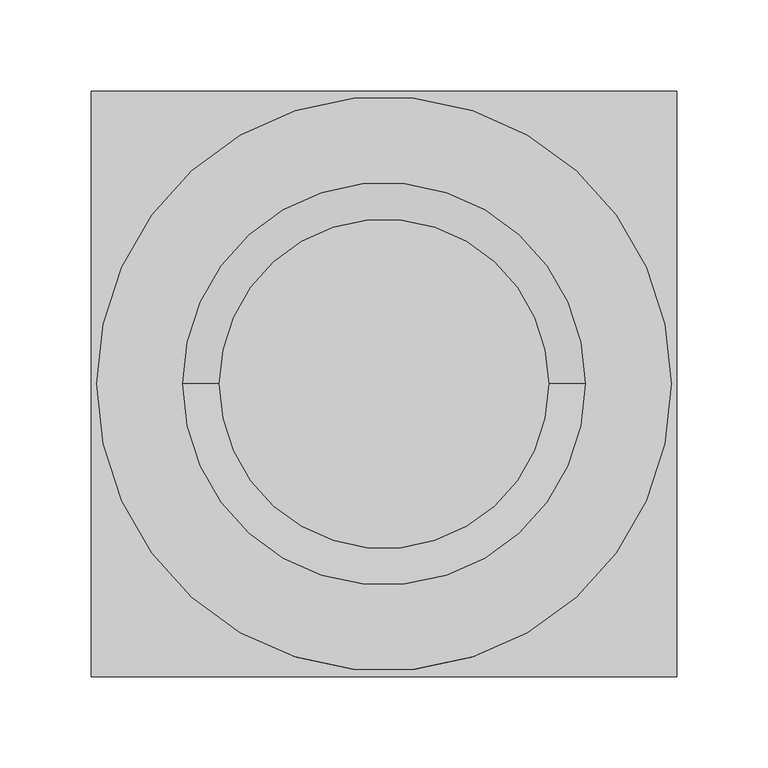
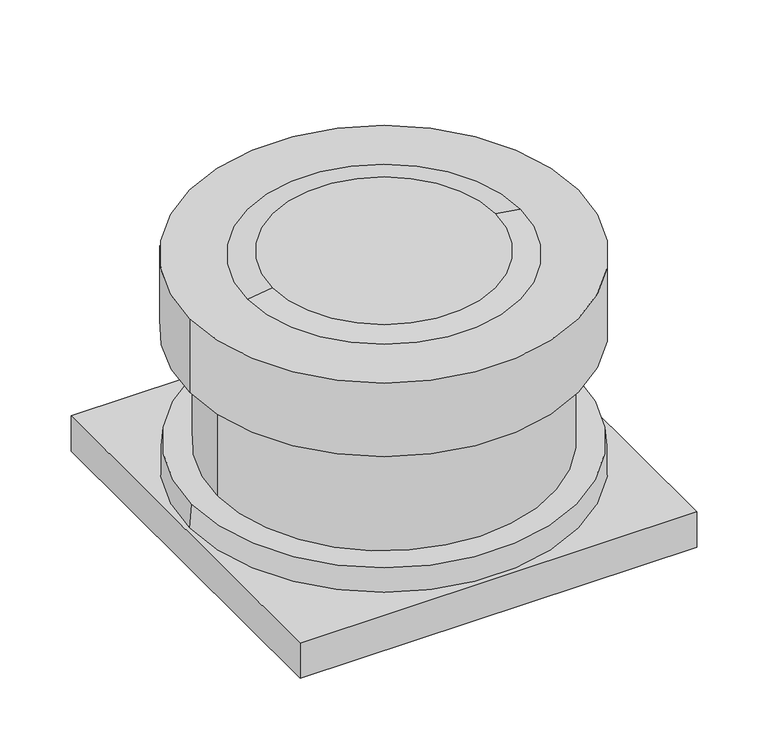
"""IFC4 building model written with IfcOpenShell, lengths in millimetres: unitary equipment geometry, VE-Wentylator-ParaForma-Harmann-MONSTER_EC-Zestaw_bez_Podstawy-Wywiewny : 190/800EC."""

from ifc_helpers import new_model, si_unit, point, frame, frame_2d, origin, origin_2d, place, context, project, spatial, polyline, circle_curve, trimmed, segment, composite_curve, outline, extrude, faceted_brep, source, transform, mapped, element, save
from ifc_brep_helpers import plane_surface, cylinder_surface, revolved_surface, advanced_brep


def unitary_equipment_ce367540(model_context):
    return source(origin(), model_context, "Body", "SolidModel", [
        faceted_brep([(156.0, 156.0, -26.0), (156.0, 156.0, 0.0), (-156.0, 156.0, 0.0), (-156.0, 156.0, -26.0), (160.0, 160.0, 4.0), (160.0, 160.0, -26.0), (-160.0, 160.0, -26.0), (-160.0, 160.0, 4.0), (-156.0, -156.0, 0.0), (-156.0, -156.0, -26.0), (-160.0, -160.0, -26.0), (-160.0, -160.0, 4.0), (156.0, -156.0, 0.0), (156.0, -156.0, -26.0), (160.0, -160.0, -26.0), (160.0, -160.0, 4.0)], [[[0, 1, 2, 3]], [[4, 5, 6, 7]], [[3, 2, 8, 9]], [[7, 6, 10, 11]], [[9, 8, 12, 13]], [[11, 10, 14, 15]], [[7, 11, 15, 4]], [[1, 12, 8, 2]], [[13, 12, 1, 0]], [[5, 14, 10, 6], [3, 9, 13, 0]], [[15, 14, 5, 4]]]),
        advanced_brep(
        [(-157.0, 0.0, 120.0), (157.0, 0.0, 120.0), (-157.0, 0.0, 183.0), (157.0, 0.0, 183.0), (110.0, 0.0, 183.0), (-110.0, 0.0, 183.0), (-90.0, 0.0, 186.0), (90.0, 0.0, 186.0)],
        [
            (0, 1, circle_curve(frame((0.0, 0.0, 120.0), z_axis=(0.0, 0.0, -1.0), x_axis=(1.0, 0.0, 0.0)), 157.0)),
            (1, 0, circle_curve(frame((0.0, 0.0, 120.0), z_axis=(0.0, 0.0, -1.0), x_axis=(1.0, 0.0, 0.0)), 157.0)),
            (2, 3, circle_curve(frame((0.0, 0.0, 183.0), z_axis=(0.0, 0.0, 1.0), x_axis=(1.0, 0.0, 0.0)), 157.0)),
            (3, 2, circle_curve(frame((0.0, 0.0, 183.0), z_axis=(0.0, 0.0, 1.0), x_axis=(1.0, 0.0, 0.0)), 157.0)),
            (4, 5, circle_curve(frame((0.0, 0.0, 183.0), z_axis=(0.0, 0.0, -1.0), x_axis=(-1.0, 0.0, 0.0)), 110.0)),
            (5, 4, circle_curve(frame((0.0, 0.0, 183.0), z_axis=(0.0, 0.0, -1.0), x_axis=(1.0, 0.0, 0.0)), 110.0)),
            (0, 2),
            (3, 1),
            (6, 7, circle_curve(frame((0.0, 0.0, 186.0), z_axis=(0.0, 0.0, 1.0), x_axis=(-1.0, 0.0, 0.0)), 90.0)),
            (7, 6, circle_curve(frame((0.0, 0.0, 186.0), z_axis=(0.0, 0.0, 1.0), x_axis=(1.0, 0.0, 0.0)), 90.0)),
            (6, 5),
            (4, 7),
        ],
        [
            plane_surface(frame((0.0, 0.0, 120.0), z_axis=(0.0, 0.0, -1.0), x_axis=(0.0, 1.0, 0.0))),
            plane_surface(frame((0.0, 0.0, 183.0), z_axis=(0.0, 0.0, 1.0), x_axis=(0.0, 1.0, 0.0))),
            cylinder_surface(frame((0.0, 0.0, 120.0), z_axis=(0.0, 0.0, -1.0), x_axis=(1.0, 0.0, 0.0)), 157.0),
            plane_surface(frame((0.0, 0.0, 186.0), z_axis=(0.0, 0.0, 1.0), x_axis=(0.0, -1.0, 0.0))),
            revolved_surface(polyline([(-90.0, 0.0, 186.0), (-110.0, 0.0, 183.0)]), (0.0, 0.0, 199.5), (0.0, 0.0, -1.0)),
            revolved_surface(polyline([(90.0, 0.0, 186.0), (110.0, 0.0, 183.0)]), (0.0, 0.0, 199.5), (0.0, 0.0, -1.0)),
        ],
        [
            (0, [[1, 2]]),
            (1, [[3, 4], [5, 6]]),
            (2, [[-1, 7, -4, 8]]),
            (2, [[-2, -8, -3, -7]]),
            (3, [[9, 10]]),
            (4, [[-9, 11, -5, 12]]),
            (5, [[-10, -12, -6, -11]]),
        ],
    ),
        extrude(outline(composite_curve([segment(trimmed(circle_curve(frame_2d((142.5, 10.9)), 8.0), [point((134.5, 10.9))], [point((150.5, 10.9))], False, "CARTESIAN"), True, "CONTINUOUS"), segment(trimmed(circle_curve(frame_2d((142.5, 10.9)), 8.0), [point((150.5, 10.9))], [point((134.5, 10.9))], False, "CARTESIAN"), True, "CONTINUOUS")], self_intersect=False)), frame((0.0, 0.0, 31.0), z_axis=(0.0, 0.0, 1.0), x_axis=(1.0, 0.0, 0.0)), (0.0, 0.0, 1.0), 85.0),
        extrude(outline(composite_curve([segment(trimmed(circle_curve(frame_2d((142.5, -10.9)), 8.0), [point((134.5, -10.9))], [point((150.5, -10.9))], False, "CARTESIAN"), True, "CONTINUOUS"), segment(trimmed(circle_curve(frame_2d((142.5, -10.9)), 8.0), [point((150.5, -10.9))], [point((134.5, -10.9))], False, "CARTESIAN"), True, "CONTINUOUS")], self_intersect=False)), frame((0.0, 0.0, 31.0), z_axis=(0.0, 0.0, 1.0), x_axis=(1.0, 0.0, 0.0)), (0.0, 0.0, 1.0), 85.0),
        extrude(outline(composite_curve([segment(trimmed(circle_curve(origin_2d(), 134.5), [point((-134.5, 0.0))], [point((134.5, 0.0))], False, "CARTESIAN"), True, "CONTINUOUS"), segment(trimmed(circle_curve(origin_2d(), 134.5), [point((134.5, 0.0))], [point((-134.5, 0.0))], False, "CARTESIAN"), True, "CONTINUOUS")], self_intersect=False)), frame((0.0, 0.0, 24.0), z_axis=(0.0, 0.0, 1.0), x_axis=(1.0, 0.0, 0.0)), (0.0, 0.0, 1.0), 96.0),
        advanced_brep(
        [(-155.25, 0.0, 24.0), (155.25, 0.0, 24.0), (-157.0, 0.0, 4.0), (157.0, 0.0, 4.0)],
        [
            (0, 1, circle_curve(frame((0.0, 0.0, 24.0), z_axis=(0.0, 0.0, 1.0), x_axis=(-1.0, 0.0, 0.0)), 155.25)),
            (1, 0, circle_curve(frame((0.0, 0.0, 24.0), z_axis=(0.0, 0.0, 1.0), x_axis=(1.0, 0.0, 0.0)), 155.25)),
            (2, 3, circle_curve(frame((0.0, 0.0, 4.0), z_axis=(0.0, 0.0, -1.0), x_axis=(1.0, 0.0, 0.0)), 157.0)),
            (3, 2, circle_curve(frame((0.0, 0.0, 4.0), z_axis=(0.0, 0.0, -1.0), x_axis=(-1.0, 0.0, 0.0)), 157.0)),
            (3, 1),
            (0, 2),
        ],
        [
            plane_surface(frame((0.0, 0.0, 24.0), z_axis=(0.0, 0.0, 1.0), x_axis=(0.0, -1.0, 0.0))),
            plane_surface(frame((0.0, 0.0, 4.0), z_axis=(0.0, 0.0, -1.0), x_axis=(0.0, -1.0, 0.0))),
            revolved_surface(polyline([(-155.25000000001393, 0.0, 24.0), (-157.0, 0.0, 4.0)]), (0.0, 0.0, 1798.2857143), (0.0, 0.0, -1.0)),
            revolved_surface(polyline([(155.25000000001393, 0.0, 24.0), (157.0, 0.0, 4.0)]), (0.0, 0.0, 1798.2857143), (0.0, 0.0, -1.0)),
        ],
        [
            (0, [[1, 2]]),
            (1, [[3, 4]]),
            (2, [[-4, 5, -1, 6]]),
            (3, [[-3, -6, -2, -5]]),
        ],
    ),
    ])


if __name__ == "__main__":
    model = new_model("IFC4")
    model_context = context("Model", 3, world=origin())
    ifc_project = project(units=[si_unit("LENGTHUNIT", "METRE", prefix="MILLI")], contexts=[model_context])
    site = spatial("IfcSite", under=ifc_project)
    building = spatial("IfcBuilding", under=site)
    placement = place(None, origin())
    unitary_equipment_shape = unitary_equipment_ce367540(model_context)
    element("IfcUnitaryEquipment", 1, ObjectType="VE-Wentylator-ParaForma-Harmann-MONSTER_EC-Zestaw_bez_Podstawy-Wywiewny : 190/800EC", at=placement, inside=building, context=model_context, shape_type="MappedRepresentation", body=[
        mapped(unitary_equipment_shape, transform((0.0, 0.0, 0.0), x_axis=(1.0, 0.0, 0.0), y_axis=(0.0, 1.0, 0.0), z_axis=(0.0, 0.0, 1.0))),
    ])
    save(model, "model.ifc")
